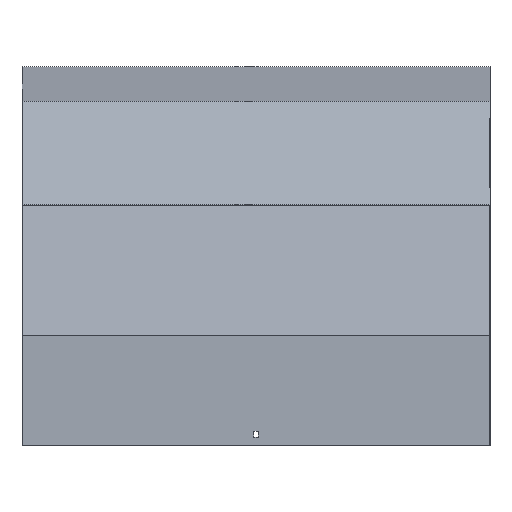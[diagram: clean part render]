
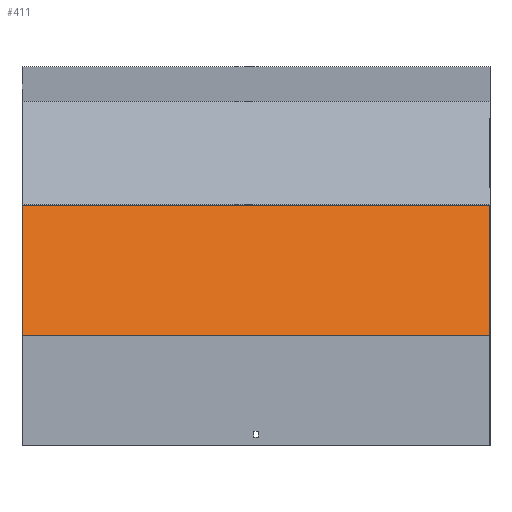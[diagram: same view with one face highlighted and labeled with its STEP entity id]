
A CAD part, top view. The second image highlights one B-rep face of the part: STEP entity #411.
In plain terms, the highlighted planar face has unit normal (0, 0.259, 0.966).
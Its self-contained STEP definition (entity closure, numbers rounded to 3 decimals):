
#30 = DIRECTION ( 'NONE',  ( 0., 0.966, -0.259 ) ) ;
#49 = LINE ( 'NONE', #314, #1075 ) ;
#73 = CARTESIAN_POINT ( 'NONE',  ( 351.5, -187.902, 517.072 ) ) ;
#128 = DIRECTION ( 'NONE',  ( 0., -0.966, 0.259 ) ) ;
#130 = EDGE_CURVE ( 'NONE', #486, #391, #49, .T. ) ;
#145 = LINE ( 'NONE', #1087, #161 ) ;
#161 = VECTOR ( 'NONE', #1081, 1000. ) ;
#184 = CARTESIAN_POINT ( 'NONE',  ( 351.5, -383.978, 569.611 ) ) ;
#185 = EDGE_LOOP ( 'NONE', ( #829, #1036, #1019, #485 ) ) ;
#229 = CARTESIAN_POINT ( 'NONE',  ( -351.5, -383.978, 569.611 ) ) ;
#243 = CARTESIAN_POINT ( 'NONE',  ( -351.5, -187.902, 517.072 ) ) ;
#272 = AXIS2_PLACEMENT_3D ( 'NONE', #465, #521, #30 ) ;
#314 = CARTESIAN_POINT ( 'NONE',  ( 351.5, -193.079, 518.459 ) ) ;
#336 = VECTOR ( 'NONE', #700, 1000. ) ;
#360 = DIRECTION ( 'NONE',  ( -1., 0., 0. ) ) ;
#375 = EDGE_CURVE ( 'NONE', #746, #991, #638, .T. ) ;
#391 = VERTEX_POINT ( 'NONE', #898 ) ;
#411 = ADVANCED_FACE ( 'NONE', ( #873 ), #893, .F. ) ;
#465 = CARTESIAN_POINT ( 'NONE',  ( 351.5, -193.079, 518.459 ) ) ;
#485 = ORIENTED_EDGE ( 'NONE', *, *, #520, .T. ) ;
#486 = VERTEX_POINT ( 'NONE', #73 ) ;
#520 = EDGE_CURVE ( 'NONE', #486, #746, #145, .T. ) ;
#521 = DIRECTION ( 'NONE',  ( 0., -0.259, -0.966 ) ) ;
#610 = LINE ( 'NONE', #184, #998 ) ;
#634 = CARTESIAN_POINT ( 'NONE',  ( -351.5, -193.079, 518.459 ) ) ;
#638 = LINE ( 'NONE', #634, #336 ) ;
#700 = DIRECTION ( 'NONE',  ( 0., -0.966, 0.259 ) ) ;
#746 = VERTEX_POINT ( 'NONE', #243 ) ;
#829 = ORIENTED_EDGE ( 'NONE', *, *, #375, .T. ) ;
#873 = FACE_OUTER_BOUND ( 'NONE', #185, .T. ) ;
#893 = PLANE ( 'NONE',  #272 ) ;
#898 = CARTESIAN_POINT ( 'NONE',  ( 351.5, -383.978, 569.611 ) ) ;
#948 = EDGE_CURVE ( 'NONE', #391, #991, #610, .T. ) ;
#991 = VERTEX_POINT ( 'NONE', #229 ) ;
#998 = VECTOR ( 'NONE', #360, 1000. ) ;
#1019 = ORIENTED_EDGE ( 'NONE', *, *, #130, .F. ) ;
#1036 = ORIENTED_EDGE ( 'NONE', *, *, #948, .F. ) ;
#1075 = VECTOR ( 'NONE', #128, 1000. ) ;
#1081 = DIRECTION ( 'NONE',  ( -1., 0., 0. ) ) ;
#1087 = CARTESIAN_POINT ( 'NONE',  ( 351.5, -187.902, 517.072 ) ) ;
